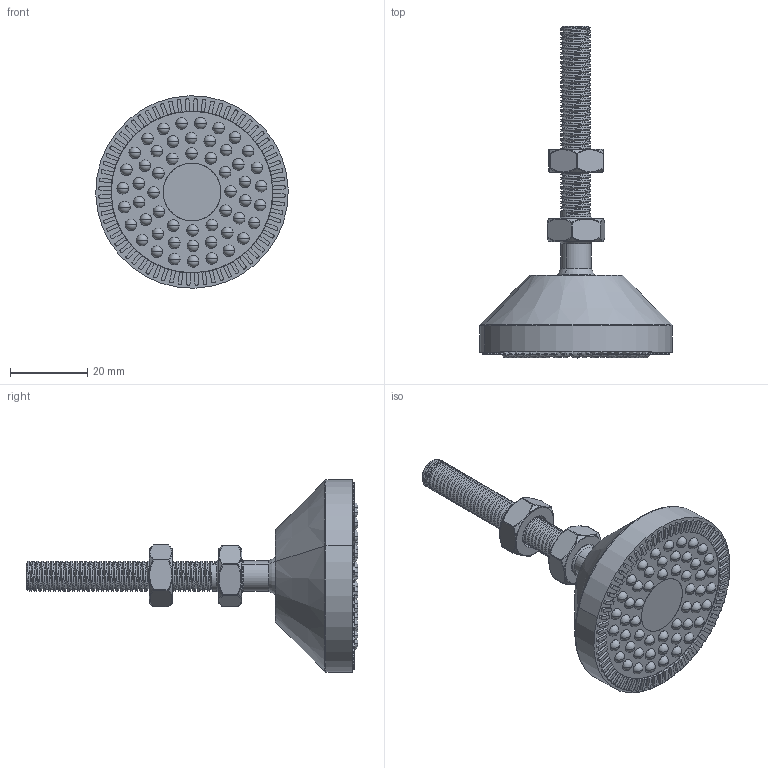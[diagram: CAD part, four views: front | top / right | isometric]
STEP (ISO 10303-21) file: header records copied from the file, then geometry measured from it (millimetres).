
FILE_DESCRIPTION (( 'STEP AP203' ), '1' );
FILE_NAME ('7035 îïîðà D50 Ì8-50.STEP', '2016-03-21T11:26:03', ( '' ), ( '' ), 'SwSTEP 2.0', 'SolidWorks 2014', '' );
FILE_SCHEMA (( 'CONFIG_CONTROL_DESIGN' ));
Length unit declared in the file: millimetre
Products named in the file (5): 7035 îïîðà D50 Ì8-50; Ïîäîøâà ïîâîðîòíàÿ 50ìì; Ïðîêëàäêà îò ñêîëüæåíèÿ ïîä 50ìì; Øïèëüêà Ì8 50ìì; Ãàéêà áåç äûðêè Ì8
Assembly tree (4 placements, depth 2):
  7035 îïîðà D50 Ì8-50
    Ïîäîøâà ïîâîðîòíàÿ 50ìì
    Ïðîêëàäêà îò ñêîëüæåíèÿ ïîä 50ìì
    Øïèëüêà Ì8 50ìì
    Ãàéêà áåç äûðêè Ì8
Bounding box: 49.98 x 86.17 x 49.98 mm (x, y, z)
Volume: 32801.8 mm3; surface area: 13415.5 mm2
Topology: 4 solids, 4 shells, 959 faces, 2667 edges, 1660 vertices
Faces by surface type: plane 367, cylinder 295, sphere 178, bspline 44, torus 38, cone 37
Entity records: 34368 total; most frequent: CARTESIAN_POINT 10703, DIRECTION 4983, ORIENTED_EDGE 4878, EDGE_CURVE 2439, AXIS2_PLACEMENT_3D 1878, VERTEX_POINT 1546, VECTOR 1227, LINE 1227
